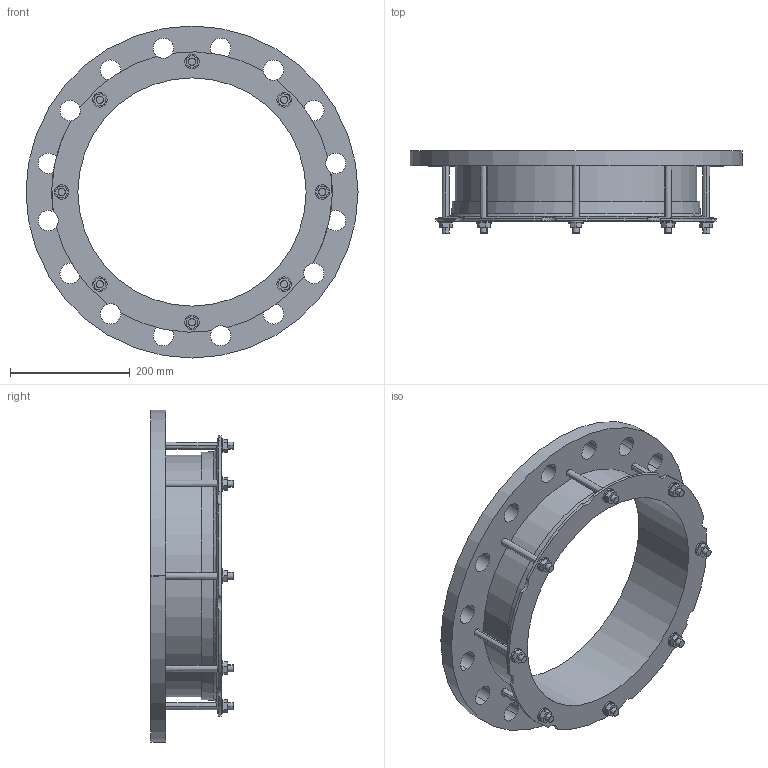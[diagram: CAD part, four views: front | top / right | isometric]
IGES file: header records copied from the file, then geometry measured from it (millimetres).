
Start section:  PTC IGES file: 378x350pn25_8not.igs
Global section: file name: 378x350pn25_8not.igs; native system: Creo Parametric by PTC Inc.; preprocessor: 2016130; author: mfairey; organization: Unknown; date: 20190404.093307; units: millimetre
Bounding box: 555 x 137.45 x 555 mm (x, y, z)
Surface area: 684576.8 mm2 (no closed solid volume)
Topology: 0 solids, 0 shells, 184 faces, 980 edges, 980 vertices
Faces by surface type: revolution 108, bspline 76
